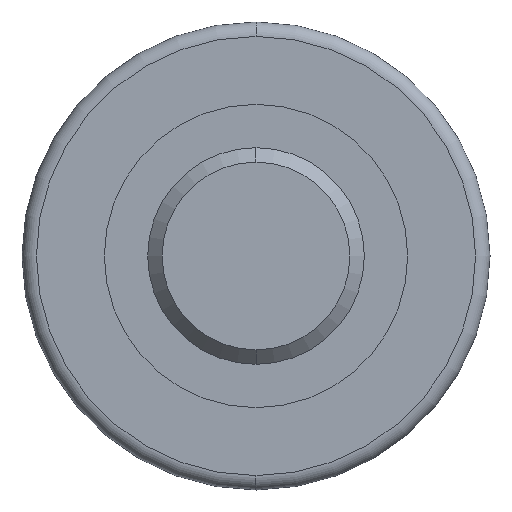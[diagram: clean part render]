
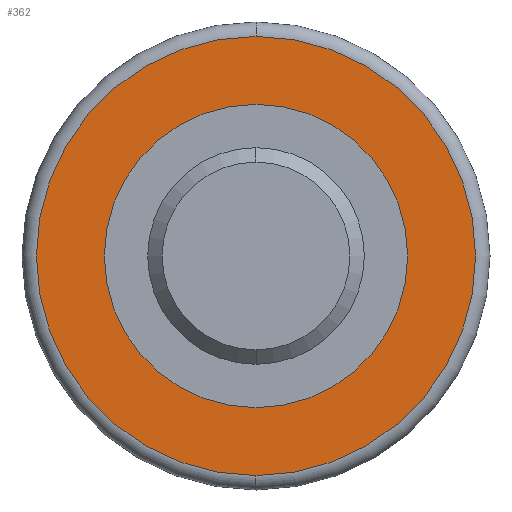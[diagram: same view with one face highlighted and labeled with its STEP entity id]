
A CAD part, left-side view. The second image highlights one B-rep face of the part: STEP entity #362.
In plain terms, the highlighted planar face has unit normal (-1, 0, 0).
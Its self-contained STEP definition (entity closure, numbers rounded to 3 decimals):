
#6 = VERTEX_POINT ( 'NONE', #113 ) ;
#9 = DIRECTION ( 'NONE',  ( 0., 0., 1. ) ) ;
#10 = AXIS2_PLACEMENT_3D ( 'NONE', #219, #394, #399 ) ;
#16 = CIRCLE ( 'NONE', #308, 30.4 ) ;
#46 = CIRCLE ( 'NONE', #438, 21. ) ;
#100 = EDGE_LOOP ( 'NONE', ( #310, #580 ) ) ;
#113 = CARTESIAN_POINT ( 'NONE',  ( 15., 0., 30.4 ) ) ;
#123 = CARTESIAN_POINT ( 'NONE',  ( 15., 0., 21. ) ) ;
#143 = AXIS2_PLACEMENT_3D ( 'NONE', #369, #669, #177 ) ;
#174 = DIRECTION ( 'NONE',  ( 0., 0., -1. ) ) ;
#177 = DIRECTION ( 'NONE',  ( 0., 0., 1. ) ) ;
#179 = EDGE_CURVE ( 'NONE', #6, #552, #16, .T. ) ;
#197 = CARTESIAN_POINT ( 'NONE',  ( 15., 0., -30.4 ) ) ;
#203 = EDGE_CURVE ( 'NONE', #642, #218, #274, .T. ) ;
#218 = VERTEX_POINT ( 'NONE', #590 ) ;
#219 = CARTESIAN_POINT ( 'NONE',  ( 15., 0., -31. ) ) ;
#248 = CARTESIAN_POINT ( 'NONE',  ( 15., 0., 0. ) ) ;
#256 = DIRECTION ( 'NONE',  ( 1., 0., 0. ) ) ;
#274 = CIRCLE ( 'NONE', #410, 21. ) ;
#308 = AXIS2_PLACEMENT_3D ( 'NONE', #248, #675, #9 ) ;
#310 = ORIENTED_EDGE ( 'NONE', *, *, #608, .T. ) ;
#349 = FACE_BOUND ( 'NONE', #100, .T. ) ;
#362 = ADVANCED_FACE ( 'NONE', ( #650, #349 ), #370, .T. ) ;
#363 = EDGE_LOOP ( 'NONE', ( #457, #459 ) ) ;
#369 = CARTESIAN_POINT ( 'NONE',  ( 15., 0., 0. ) ) ;
#370 = PLANE ( 'NONE',  #10 ) ;
#394 = DIRECTION ( 'NONE',  ( -1., 0., 0. ) ) ;
#399 = DIRECTION ( 'NONE',  ( 0., 0., 1. ) ) ;
#410 = AXIS2_PLACEMENT_3D ( 'NONE', #543, #595, #589 ) ;
#438 = AXIS2_PLACEMENT_3D ( 'NONE', #668, #256, #174 ) ;
#457 = ORIENTED_EDGE ( 'NONE', *, *, #179, .T. ) ;
#459 = ORIENTED_EDGE ( 'NONE', *, *, #462, .T. ) ;
#462 = EDGE_CURVE ( 'NONE', #552, #6, #582, .T. ) ;
#543 = CARTESIAN_POINT ( 'NONE',  ( 15., 0., 0. ) ) ;
#552 = VERTEX_POINT ( 'NONE', #197 ) ;
#580 = ORIENTED_EDGE ( 'NONE', *, *, #203, .T. ) ;
#582 = CIRCLE ( 'NONE', #143, 30.4 ) ;
#589 = DIRECTION ( 'NONE',  ( 0., 0., -1. ) ) ;
#590 = CARTESIAN_POINT ( 'NONE',  ( 15., 0., -21. ) ) ;
#595 = DIRECTION ( 'NONE',  ( 1., 0., 0. ) ) ;
#608 = EDGE_CURVE ( 'NONE', #218, #642, #46, .T. ) ;
#642 = VERTEX_POINT ( 'NONE', #123 ) ;
#650 = FACE_OUTER_BOUND ( 'NONE', #363, .T. ) ;
#668 = CARTESIAN_POINT ( 'NONE',  ( 15., 0., 0. ) ) ;
#669 = DIRECTION ( 'NONE',  ( -1., 0., 0. ) ) ;
#675 = DIRECTION ( 'NONE',  ( -1., 0., 0. ) ) ;
